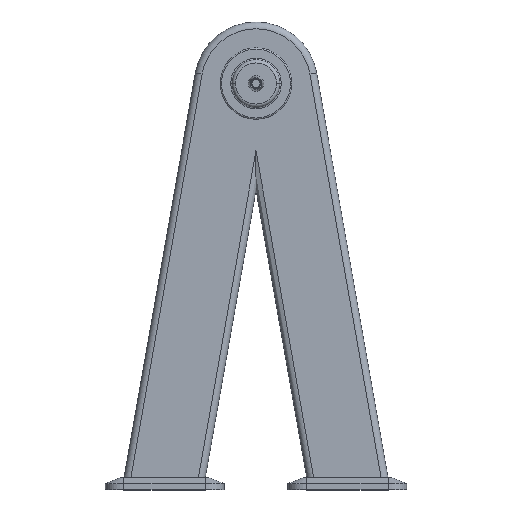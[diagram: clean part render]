
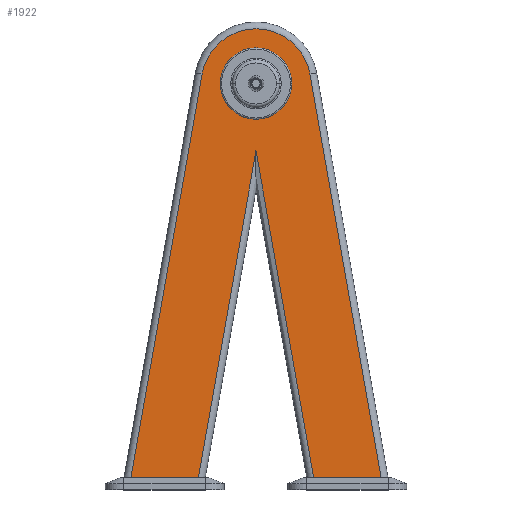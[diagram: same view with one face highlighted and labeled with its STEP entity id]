
A CAD part, top view. The second image highlights one B-rep face of the part: STEP entity #1922.
In plain terms, the highlighted planar face has unit normal (0, 0, 1).
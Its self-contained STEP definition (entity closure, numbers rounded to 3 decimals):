
#3 = DIRECTION ( 'NONE',  ( 0.174, -0.985, 0. ) ) ;
#21 = ORIENTED_EDGE ( 'NONE', *, *, #2207, .F. ) ;
#25 = ORIENTED_EDGE ( 'NONE', *, *, #1895, .F. ) ;
#32 = ORIENTED_EDGE ( 'NONE', *, *, #671, .T. ) ;
#38 = CARTESIAN_POINT ( 'NONE',  ( -93.556, 20., 63. ) ) ;
#52 = CIRCLE ( 'NONE', #1685, 89. ) ;
#84 = DIRECTION ( 'NONE',  ( -1., 0., 0. ) ) ;
#104 = ORIENTED_EDGE ( 'NONE', *, *, #1462, .T. ) ;
#108 = ORIENTED_EDGE ( 'NONE', *, *, #187, .T. ) ;
#187 = EDGE_CURVE ( 'NONE', #946, #2226, #1039, .T. ) ;
#198 = CIRCLE ( 'NONE', #2297, 58. ) ;
#224 = CARTESIAN_POINT ( 'NONE',  ( 203.222, 20., 63. ) ) ;
#270 = EDGE_CURVE ( 'NONE', #2264, #1595, #757, .T. ) ;
#278 = LINE ( 'NONE', #2616, #1271 ) ;
#335 = DIRECTION ( 'NONE',  ( 0., 0., 1. ) ) ;
#388 = VECTOR ( 'NONE', #2620, 1000. ) ;
#392 = CARTESIAN_POINT ( 'NONE',  ( 0., 660., 63. ) ) ;
#399 = ORIENTED_EDGE ( 'NONE', *, *, #270, .F. ) ;
#455 = DIRECTION ( 'NONE',  ( -1., 0., 0. ) ) ;
#461 = DIRECTION ( 'NONE',  ( 0., 0., 1. ) ) ;
#477 = CARTESIAN_POINT ( 'NONE',  ( -203.222, 20., 63. ) ) ;
#485 = ORIENTED_EDGE ( 'NONE', *, *, #2249, .T. ) ;
#597 = CARTESIAN_POINT ( 'NONE',  ( 0., 660., 63. ) ) ;
#603 = VECTOR ( 'NONE', #455, 1000. ) ;
#604 = ORIENTED_EDGE ( 'NONE', *, *, #2608, .T. ) ;
#626 = DIRECTION ( 'NONE',  ( 1., 0., 0. ) ) ;
#671 = EDGE_CURVE ( 'NONE', #1788, #1452, #1664, .T. ) ;
#757 = CIRCLE ( 'NONE', #2519, 58. ) ;
#780 = AXIS2_PLACEMENT_3D ( 'NONE', #1680, #335, #1890 ) ;
#842 = DIRECTION ( 'NONE',  ( 1., 0., 0. ) ) ;
#883 = EDGE_LOOP ( 'NONE', ( #25, #32, #485, #1081, #604, #104, #108 ) ) ;
#946 = VERTEX_POINT ( 'NONE', #2146 ) ;
#1039 = LINE ( 'NONE', #2464, #1485 ) ;
#1070 = FACE_OUTER_BOUND ( 'NONE', #883, .T. ) ;
#1075 = EDGE_CURVE ( 'NONE', #1080, #1392, #1660, .T. ) ;
#1080 = VERTEX_POINT ( 'NONE', #224 ) ;
#1081 = ORIENTED_EDGE ( 'NONE', *, *, #1075, .F. ) ;
#1167 = CARTESIAN_POINT ( 'NONE',  ( -10.833, 489.147, 63. ) ) ;
#1271 = VECTOR ( 'NONE', #3, 1000. ) ;
#1305 = DIRECTION ( 'NONE',  ( -0.174, 0.985, 0. ) ) ;
#1342 = CARTESIAN_POINT ( 'NONE',  ( 58., 660., 63. ) ) ;
#1392 = VERTEX_POINT ( 'NONE', #2483 ) ;
#1414 = VECTOR ( 'NONE', #1305, 1000. ) ;
#1452 = VERTEX_POINT ( 'NONE', #2716 ) ;
#1455 = DIRECTION ( 'NONE',  ( -0.174, -0.985, 0. ) ) ;
#1462 = EDGE_CURVE ( 'NONE', #1497, #946, #52, .T. ) ;
#1485 = VECTOR ( 'NONE', #1455, 1000. ) ;
#1497 = VERTEX_POINT ( 'NONE', #1507 ) ;
#1507 = CARTESIAN_POINT ( 'NONE',  ( 87.648, 675.455, 63. ) ) ;
#1595 = VERTEX_POINT ( 'NONE', #1342 ) ;
#1612 = CARTESIAN_POINT ( 'NONE',  ( -58., 660., 63. ) ) ;
#1654 = VECTOR ( 'NONE', #84, 1000. ) ;
#1660 = LINE ( 'NONE', #1786, #603 ) ;
#1664 = LINE ( 'NONE', #1167, #388 ) ;
#1680 = CARTESIAN_POINT ( 'NONE',  ( 0., 660., 63. ) ) ;
#1685 = AXIS2_PLACEMENT_3D ( 'NONE', #597, #2114, #842 ) ;
#1786 = CARTESIAN_POINT ( 'NONE',  ( 0., 20., 63. ) ) ;
#1788 = VERTEX_POINT ( 'NONE', #38 ) ;
#1796 = CARTESIAN_POINT ( 'NONE',  ( 0., 660., 63. ) ) ;
#1890 = DIRECTION ( 'NONE',  ( 1., 0., 0. ) ) ;
#1895 = EDGE_CURVE ( 'NONE', #1788, #2226, #2189, .T. ) ;
#1922 = ADVANCED_FACE ( 'NONE', ( #2661, #1070 ), #2687, .T. ) ;
#1937 = DIRECTION ( 'NONE',  ( 0., 0., 1. ) ) ;
#1965 = LINE ( 'NONE', #2744, #1414 ) ;
#1995 = DIRECTION ( 'NONE',  ( 1., 0., 0. ) ) ;
#2114 = DIRECTION ( 'NONE',  ( 0., 0., 1. ) ) ;
#2126 = EDGE_LOOP ( 'NONE', ( #399, #21 ) ) ;
#2146 = CARTESIAN_POINT ( 'NONE',  ( -87.648, 675.455, 63. ) ) ;
#2189 = LINE ( 'NONE', #2670, #1654 ) ;
#2207 = EDGE_CURVE ( 'NONE', #1595, #2264, #198, .T. ) ;
#2226 = VERTEX_POINT ( 'NONE', #477 ) ;
#2249 = EDGE_CURVE ( 'NONE', #1452, #1392, #278, .T. ) ;
#2264 = VERTEX_POINT ( 'NONE', #1612 ) ;
#2297 = AXIS2_PLACEMENT_3D ( 'NONE', #1796, #461, #1995 ) ;
#2464 = CARTESIAN_POINT ( 'NONE',  ( -208.144, -7.91, 63. ) ) ;
#2483 = CARTESIAN_POINT ( 'NONE',  ( 93.556, 20., 63. ) ) ;
#2519 = AXIS2_PLACEMENT_3D ( 'NONE', #392, #1937, #626 ) ;
#2608 = EDGE_CURVE ( 'NONE', #1080, #1497, #1965, .T. ) ;
#2616 = CARTESIAN_POINT ( 'NONE',  ( 99.668, -14.664, 63. ) ) ;
#2620 = DIRECTION ( 'NONE',  ( 0.174, 0.985, 0. ) ) ;
#2661 = FACE_BOUND ( 'NONE', #2126, .T. ) ;
#2670 = CARTESIAN_POINT ( 'NONE',  ( 0., 20., 63. ) ) ;
#2687 = PLANE ( 'NONE',  #780 ) ;
#2716 = CARTESIAN_POINT ( 'NONE',  ( 0., 550.583, 63. ) ) ;
#2744 = CARTESIAN_POINT ( 'NONE',  ( 87.648, 675.455, 63. ) ) ;
